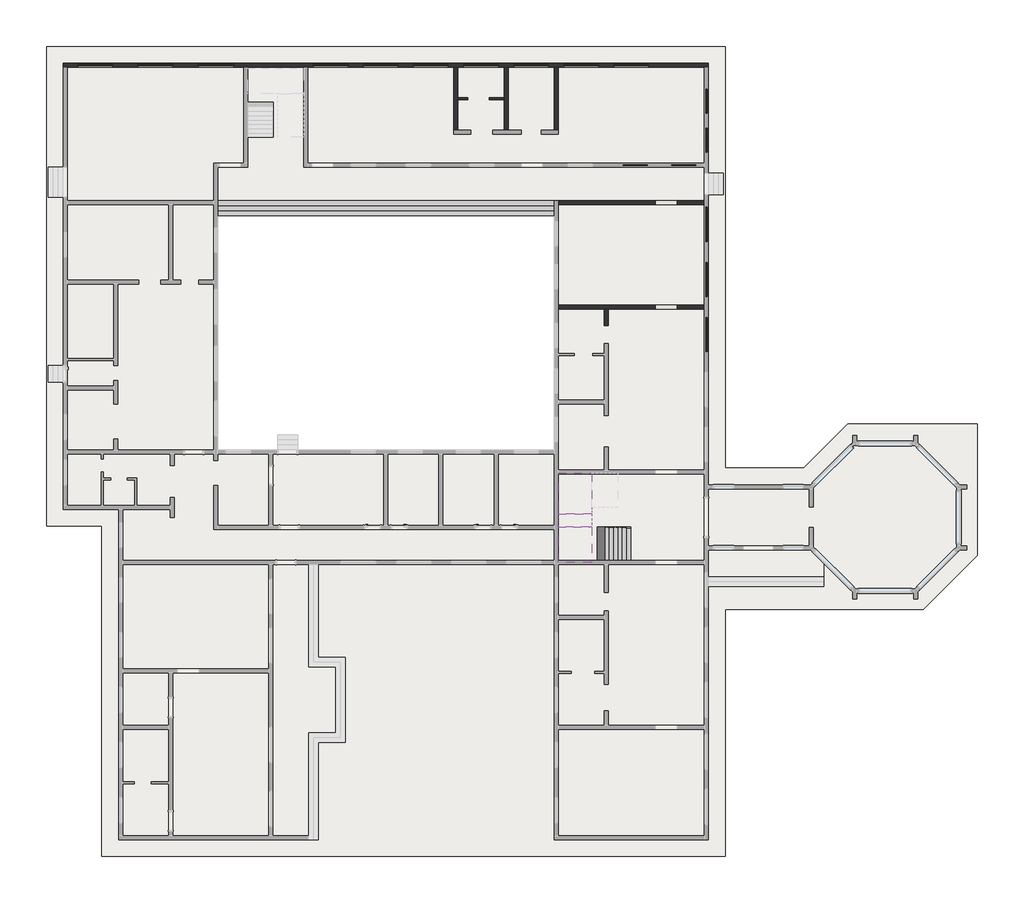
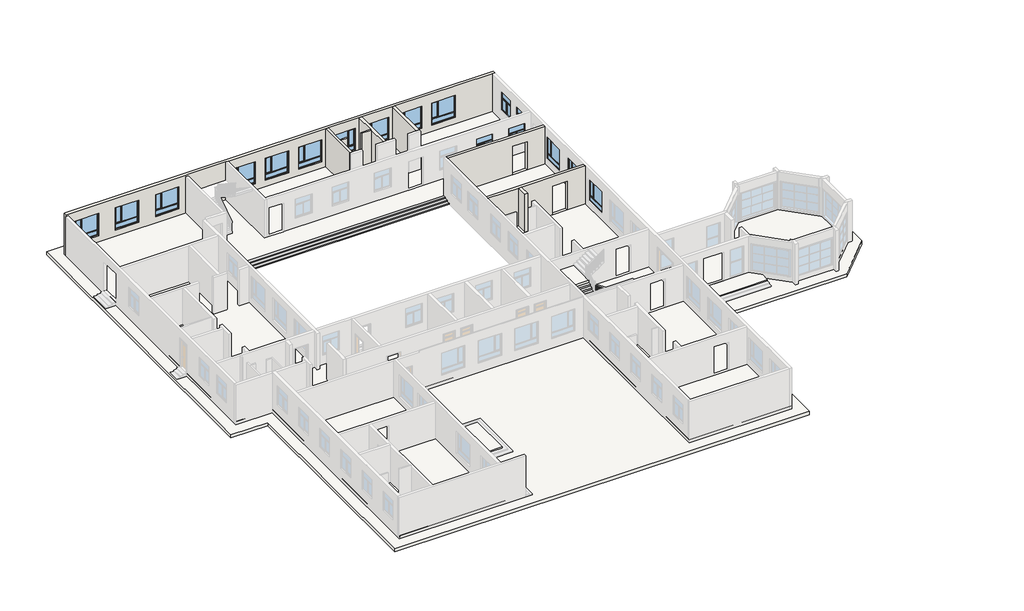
# One storey, part 4 of 5: 17 windows, 9 walls, 5 slabs, 2 stair flights, 1 proxy.
"""IFC4 building model written with IfcOpenShell, lengths in millimetres."""

from ifc_helpers import new_model, si_unit, frame, origin, origin_with_axes, place, context, project, spatial, polyline, outline, extrude, faceted_brep, transform, mapped, element, save
from components import c1_07d47191, c2_05897f81, c2_cc7e28b3

model = new_model("IFC4")

# Units and contexts
model_context = context("Model", 3, world=origin())
ifc_project = project(units=[si_unit("LENGTHUNIT", "METRE", prefix="MILLI")], contexts=[model_context])

# Site, building, storey
site = spatial("IfcSite", under=ifc_project)
building = spatial("IfcBuilding", under=site)
storey = spatial("IfcBuildingStorey", under=building, Name="一层", Elevation=0.0)

# Proxy
placement = place(None, origin())
element("IfcBuildingElementProxy", 1, Name="楼板边缘", ObjectType="楼板边缘", at=placement, inside=storey, context=model_context, shape_type="Brep", body=[
    faceted_brep([(-23140.2831392, 10466.2161615, -300.0), (-23140.2831392, 9566.2161615, -300.0), (-23140.2831392, 9566.2161615, -200.0), (-23140.2831392, 9866.2161615, -200.0), (-23140.2831392, 9866.2161615, -150.0), (-23140.2831392, 9866.2161615, -100.0), (-23140.2831392, 10166.2161615, -100.0), (-23140.2831392, 10166.2161615, 0.0), (-23140.2831392, 10466.2161615, 0.0), (-23140.2831392, 10466.2161615, -150.0), (-2990.2831392, 9566.2161615, -300.0), (-2990.2831392, 10466.2161615, -300.0), (-2990.2831392, 10466.2161615, -150.0), (-2990.2831392, 10466.2161615, 0.0), (-2990.2831392, 10166.2161615, 0.0), (-2990.2831392, 10166.2161615, -100.0), (-2990.2831392, 9866.2161615, -100.0), (-2990.2831392, 9866.2161615, -150.0), (-2990.2831392, 9866.2161615, -200.0), (-2990.2831392, 9566.2161615, -200.0)], [[[0, 1, 2, 3, 4, 5, 6, 7, 8, 9]], [[10, 11, 12, 13, 14, 15, 16, 17, 18, 19]], [[1, 0, 11, 10]], [[2, 1, 10, 19]], [[3, 2, 19, 18]], [[3, 18, 17, 16, 5, 4]], [[6, 5, 16, 15]], [[7, 6, 15, 14]], [[8, 7, 14, 13]], [[8, 13, 12, 11, 0, 9]]]),
])

# Slabs
element("IfcSlab", 2, ObjectType="楼板", at=placement, inside=storey, context=model_context, shape_type="Brep", body=[
    faceted_brep([(-32385.2831392, -423.7838385, -150.0), (-32390.2831392, -423.7838385, -150.0), (-32390.2831392, 576.2161615, -150.0), (-32385.2831392, 576.2161615, -150.0), (-32385.2831392, 10676.2161615, -150.0), (-32390.2831392, 10676.2161615, -150.0), (-32390.2831392, 12476.2161615, -150.0), (-32385.2831392, 12476.2161615, -150.0), (-32385.2831392, 18691.2161615, -150.0), (6244.7168608, 18691.2161615, -150.0), (6244.7168608, 12111.2161615, -150.0), (6249.7168608, 12111.2161615, -150.0), (6249.7168608, 10811.2161615, -150.0), (6244.7168608, 10811.2161615, -150.0), (6244.7168608, -6571.7838385, -150.0), (12377.0823012, -6571.7838385, -150.0), (14960.0823012, -3988.7838385, -150.0), (18709.3514205, -3988.7838385, -150.0), (21359.7168608, -6639.1492788, -150.0), (21359.7168608, -10388.4183981, -150.0), (18709.3514205, -13038.7838385, -150.0), (14960.0823012, -13038.7838385, -150.0), (12377.0823012, -10455.7838385, -150.0), (6244.7168608, -10455.7838385, -150.0), (6244.7168608, -27828.7838385, -150.0), (-2985.2831392, -27828.7838385, -150.0), (-2985.2831392, -11328.7838385, -150.0), (-17710.2831392, -11328.7838385, -150.0), (-17710.2831392, -17513.7838385, -150.0), (-16110.2831392, -17513.7838385, -150.0), (-16110.2831392, -21413.7838385, -150.0), (-17710.2831392, -21413.7838385, -150.0), (-17710.2831392, -27828.7838385, -150.0), (-29065.2831392, -27828.7838385, -150.0), (-29065.2831392, -8028.7838385, -150.0), (-32385.2831392, -8028.7838385, -150.0), (-23140.2831392, 10466.2161615, -150.0), (-23140.2831392, -4493.7838385, -150.0), (-2990.2831392, -4493.7838385, -150.0), (-2990.2831392, 10466.2161615, -150.0), (-32385.2831392, -423.7838385, 0.0), (-32385.2831392, -8028.7838385, 0.0), (-29065.2831392, -8028.7838385, 0.0), (-29065.2831392, -27828.7838385, 0.0), (-17710.2831392, -27828.7838385, 0.0), (-17710.2831392, -21413.7838385, 0.0), (-16110.2831392, -21413.7838385, 0.0), (-16110.2831392, -17513.7838385, 0.0), (-17710.2831392, -17513.7838385, 0.0), (-17710.2831392, -11328.7838385, 0.0), (-2985.2831392, -11328.7838385, 0.0), (-2985.2831392, -27828.7838385, 0.0), (6244.7168608, -27828.7838385, 0.0), (6244.7168608, -10455.7838385, 0.0), (12377.0823012, -10455.7838385, 0.0), (14960.0823012, -13038.7838385, 0.0), (18709.3514205, -13038.7838385, 0.0), (21359.7168608, -10388.4183981, 0.0), (21359.7168608, -6639.1492788, 0.0), (18709.3514205, -3988.7838385, 0.0), (14960.0823012, -3988.7838385, 0.0), (12377.0823012, -6571.7838385, 0.0), (6244.7168608, -6571.7838385, 0.0), (6244.7168608, 10811.2161615, 0.0), (6249.7168608, 10811.2161615, 0.0), (6249.7168608, 12111.2161615, 0.0), (6244.7168608, 12111.2161615, 0.0), (6244.7168608, 18691.2161615, 0.0), (-32385.2831392, 18691.2161615, 0.0), (-32385.2831392, 12476.2161615, 0.0), (-32390.2831392, 12476.2161615, 0.0), (-32390.2831392, 10676.2161615, 0.0), (-32385.2831392, 10676.2161615, 0.0), (-32385.2831392, 576.2161615, 0.0), (-32390.2831392, 576.2161615, 0.0), (-32390.2831392, -423.7838385, 0.0), (-23140.2831392, 10466.2161615, 0.0), (-2990.2831392, 10466.2161615, 0.0), (-2990.2831392, 10166.2161615, 0.0), (-2990.2831392, -4493.7838385, 0.0), (-23140.2831392, -4493.7838385, 0.0), (-23140.2831392, 10166.2161615, 0.0)], [[[0, 1, 2, 3, 4, 5, 6, 7, 8, 9, 10, 11, 12, 13, 14, 15, 16, 17, 18, 19, 20, 21, 22, 23, 24, 25, 26, 27, 28, 29, 30, 31, 32, 33, 34, 35], [36, 37, 38, 39]], [[40, 41, 42, 43, 44, 45, 46, 47, 48, 49, 50, 51, 52, 53, 54, 55, 56, 57, 58, 59, 60, 61, 62, 63, 64, 65, 66, 67, 68, 69, 70, 71, 72, 73, 74, 75], [76, 77, 78, 79, 80, 81]], [[9, 8, 68, 67]], [[14, 13, 63, 62]], [[15, 14, 62, 61]], [[16, 15, 61, 60]], [[17, 16, 60, 59]], [[18, 17, 59, 58]], [[19, 18, 58, 57]], [[20, 19, 57, 56]], [[21, 20, 56, 55]], [[22, 21, 55, 54]], [[23, 22, 54, 53]], [[24, 23, 53, 52]], [[25, 24, 52, 51]], [[26, 25, 51, 50]], [[27, 26, 50, 49]], [[28, 27, 49, 48]], [[29, 28, 48, 47]], [[30, 29, 47, 46]], [[31, 30, 46, 45]], [[32, 31, 45, 44]], [[33, 32, 44, 43]], [[34, 33, 43, 42]], [[35, 34, 42, 41]], [[0, 35, 41, 40]], [[1, 0, 40, 75]], [[2, 1, 75, 74]], [[3, 2, 74, 73]], [[4, 3, 73, 72]], [[5, 4, 72, 71]], [[6, 5, 71, 70]], [[7, 6, 70, 69]], [[8, 7, 69, 68]], [[10, 9, 67, 66]], [[11, 10, 66, 65]], [[12, 11, 65, 64]], [[13, 12, 64, 63]], [[37, 36, 76, 81, 80]], [[38, 37, 80, 79]], [[39, 38, 79, 78, 77]], [[36, 39, 77, 76]]]),
])
element("IfcSlab", 3, ObjectType="楼板", at=placement, inside=storey, context=model_context, shape_type="SweptSolid", body=[
    extrude(outline(polyline([(6249.7168608, -12060.7838385), (6249.7168608, -10460.7838385), (12375.0112333, -10460.7838385), (13149.7168608, -11235.4894659), (13149.7168608, -12060.7838385), (6249.7168608, -12060.7838385)])), frame((0.0, 0.0, -150.0), z_axis=(0.0, 0.0, 1.0), x_axis=(1.0, 0.0, 0.0)), (0.0, 0.0, 1.0), 150.0),
])
element("IfcSlab", 4, ObjectType="底板", at=placement, inside=storey, context=model_context, shape_type="SweptSolid", body=[
    extrude(outline(polyline([(7249.7168608, 19696.2161615), (7249.7168608, -5566.7838385), (11960.797671, -5566.7838385), (14610.9044522, -2916.6770573), (22364.7168608, -2916.6770573), (22364.7168608, -10804.7030283), (19125.6360507, -14043.7838385), (7249.7168608, -14043.7838385), (7249.7168608, -28833.7838385), (-30070.2831392, -28833.7838385), (-30070.2831392, -9033.7838385), (-33390.2831392, -9033.7838385), (-33390.2831392, 19696.2161615), (7249.7168608, 19696.2161615)]), holes=[polyline([(6249.7168608, 18696.2161615), (-32390.2831392, 18696.2161615), (-32390.2831392, -8033.7838385), (-29070.2831392, -8033.7838385), (-29070.2831392, -27833.7838385), (-17110.2831392, -27833.7838385), (-17110.2831392, -22013.7838385), (-15510.2831392, -22013.7838385), (-15510.2831392, -16913.7838385), (-17110.2831392, -16913.7838385), (-17110.2831392, -11333.7838385), (-2990.2831392, -11333.7838385), (-2990.2831392, -27833.7838385), (6249.7168608, -27833.7838385), (6249.7168608, -10460.7838385), (12375.0112333, -10460.7838385), (14887.7168608, -12973.4894659), (14958.0112333, -13043.7838385), (14971.4224883, -13043.7838385), (18711.4224883, -13043.7838385), (21364.7168608, -10390.4894659), (21364.7168608, -6637.078211), (18711.4224883, -3983.7838385), (14958.0112333, -3983.7838385), (12375.0112333, -6566.7838385), (6249.7168608, -6566.7838385), (6249.7168608, 18696.2161615)])]), frame((0.0, 0.0, -600.0), z_axis=(0.0, 0.0, 1.0), x_axis=(1.0, 0.0, 0.0)), (0.0, 0.0, 1.0), 300.0),
])
element("IfcSlab", 5, ObjectType="250 厚度", at=placement, inside=storey, context=model_context, shape_type="Brep", body=[
    faceted_brep([(-750.2831392, -11153.7838385, 1800.0), (-750.2831392, -9093.7838385, 1800.0), (-2750.2831392, -9093.7838385, 1800.0), (-2750.2831392, -9191.3718112, 1800.0), (-2750.2831392, -11213.7838385, 1800.0), (-750.2831392, -11213.7838385, 1800.0), (-750.2831392, -11213.7838385, 1550.0), (-750.2831392, -11153.7838385, 1550.0), (-750.2831392, -9093.7838385, 1620.0), (-750.2831392, -9093.7838385, 1617.5609042), (-750.2831392, -9093.7838385, 1437.5609042), (-912.6951664, -9093.7838385, 1550.0), (-912.6951664, -9093.7838385, 1617.5609042), (-2750.2831392, -9093.7838385, 1617.5609042), (-2750.2831392, -9191.3718112, 1550.0), (-2750.2831392, -11213.7838385, 1550.0), (-912.6951664, -9191.3718112, 1550.0), (-912.6951664, -11153.7838385, 1550.0), (-750.2831392, -11153.7838385, 1437.5609042)], [[[0, 1, 2, 3, 4, 5]], [[0, 5, 6, 7]], [[2, 1, 8, 9, 10, 11, 12, 13]], [[2, 13, 14, 15, 4, 3]], [[5, 4, 15, 6]], [[16, 17, 7, 6, 15, 14]], [[16, 11, 10, 18, 17]], [[11, 16, 12]], [[7, 17, 18]], [[16, 14, 13, 12]], [[1, 0, 7, 18, 10, 9, 8]]]),
])
element("IfcSlab", 6, ObjectType="250 厚度", at=placement, inside=storey, context=model_context, shape_type="Brep", body=[
    faceted_brep([(-2750.2831392, -8313.7838385, 2520.0), (-750.2831392, -8313.7838385, 2520.0), (-750.2831392, -8151.3718112, 2520.0), (-750.2831392, -7933.7838385, 2520.0), (-750.2831392, -5873.7838385, 2520.0), (-847.8711119, -5873.7838385, 2520.0), (-2750.2831392, -5873.7838385, 2520.0), (-2750.2831392, -8151.3718112, 2520.0), (-2750.2831392, -8313.7838385, 2340.0), (-2750.2831392, -8313.7838385, 2157.5609042), (-750.2831392, -8313.7838385, 2157.5609042), (-750.2831392, -8313.7838385, 2340.0), (-750.2831392, -8151.3718112, 2270.0), (-750.2831392, -7933.7838385, 2270.0), (-750.2831392, -7933.7838385, 2337.5609042), (-750.2831392, -5873.7838385, 2337.5609042), (-847.8711119, -5873.7838385, 2270.0), (-2750.2831392, -5873.7838385, 2270.0), (-2750.2831392, -8151.3718112, 2270.0), (-847.8711119, -7933.7838385, 2270.0)], [[[0, 1, 2, 3, 4, 5, 6, 7]], [[1, 0, 8, 9, 10, 11]], [[1, 11, 10, 12, 13, 14, 3, 2]], [[4, 3, 14, 15]], [[4, 15, 16, 17, 6, 5]], [[9, 8, 0, 7, 6, 17, 18]], [[19, 13, 12, 18, 17, 16]], [[13, 19, 14]], [[18, 12, 10, 9]], [[19, 16, 15, 14]]]),
])

# Stair flights
element("IfcStairFlight", 7, ObjectType="150mm 结构深度", at=placement, inside=storey, context=model_context, shape_type="Brep", body=[
    faceted_brep([(1329.7168608, -11153.7838385, 180.0), (1589.7168608, -11153.7838385, 180.0), (1589.7168608, -9093.7838385, 180.0), (1329.7168608, -9093.7838385, 180.0), (1329.7168608, -11153.7838385, 0.0), (1589.7168608, -11153.7838385, 0.0), (1589.7168608, -9093.7838385, 0.0), (1329.7168608, -9093.7838385, 0.0), (1069.7168608, -11153.7838385, 360.0), (1329.7168608, -11153.7838385, 360.0), (1329.7168608, -9093.7838385, 360.0), (1069.7168608, -9093.7838385, 360.0), (1069.7168608, -11153.7838385, 177.5609042), (1326.1937225, -11153.7838385, 0.0), (1326.1937225, -9093.7838385, 0.0), (1069.7168608, -9093.7838385, 177.5609042), (809.7168608, -11153.7838385, 540.0), (1069.7168608, -11153.7838385, 540.0), (1069.7168608, -9093.7838385, 540.0), (809.7168608, -9093.7838385, 540.0), (809.7168608, -11153.7838385, 357.5609042), (809.7168608, -9093.7838385, 357.5609042), (549.7168608, -11153.7838385, 720.0), (809.7168608, -11153.7838385, 720.0), (809.7168608, -9093.7838385, 720.0), (549.7168608, -9093.7838385, 720.0), (549.7168608, -11153.7838385, 537.5609042), (549.7168608, -9093.7838385, 537.5609042), (289.7168608, -11153.7838385, 900.0), (549.7168608, -11153.7838385, 900.0), (549.7168608, -9093.7838385, 900.0), (289.7168608, -9093.7838385, 900.0), (289.7168608, -11153.7838385, 717.5609042), (289.7168608, -9093.7838385, 717.5609042), (29.7168608, -11153.7838385, 1080.0), (289.7168608, -11153.7838385, 1080.0), (289.7168608, -9093.7838385, 1080.0), (29.7168608, -9093.7838385, 1080.0), (29.7168608, -11153.7838385, 897.5609042), (29.7168608, -9093.7838385, 897.5609042), (-230.2831392, -11153.7838385, 1260.0), (29.7168608, -11153.7838385, 1260.0), (29.7168608, -9093.7838385, 1260.0), (-230.2831392, -9093.7838385, 1260.0), (-230.2831392, -11153.7838385, 1077.5609042), (-230.2831392, -9093.7838385, 1077.5609042), (-490.2831392, -11153.7838385, 1440.0), (-230.2831392, -11153.7838385, 1440.0), (-230.2831392, -9093.7838385, 1440.0), (-490.2831392, -9093.7838385, 1440.0), (-490.2831392, -11153.7838385, 1257.5609042), (-490.2831392, -9093.7838385, 1257.5609042), (-750.2831392, -11153.7838385, 1620.0), (-490.2831392, -11153.7838385, 1620.0), (-490.2831392, -9093.7838385, 1620.0), (-750.2831392, -9093.7838385, 1620.0), (-750.2831392, -11153.7838385, 1550.0), (-750.2831392, -11153.7838385, 1437.5609042), (-750.2831392, -9093.7838385, 1437.5609042)], [[[0, 1, 2, 3]], [[1, 0, 4, 5]], [[2, 1, 5, 6]], [[3, 2, 6, 7]], [[8, 9, 10, 11]], [[4, 0, 9, 8, 12, 13]], [[0, 3, 10, 9]], [[3, 7, 14, 15, 11, 10]], [[16, 17, 18, 19]], [[17, 16, 20, 12, 8]], [[8, 11, 18, 17]], [[19, 18, 11, 15, 21]], [[22, 23, 24, 25]], [[23, 22, 26, 20, 16]], [[16, 19, 24, 23]], [[25, 24, 19, 21, 27]], [[28, 29, 30, 31]], [[29, 28, 32, 26, 22]], [[22, 25, 30, 29]], [[31, 30, 25, 27, 33]], [[34, 35, 36, 37]], [[35, 34, 38, 32, 28]], [[28, 31, 36, 35]], [[37, 36, 31, 33, 39]], [[40, 41, 42, 43]], [[41, 40, 44, 38, 34]], [[34, 37, 42, 41]], [[43, 42, 37, 39, 45]], [[46, 47, 48, 49]], [[47, 46, 50, 44, 40]], [[40, 43, 48, 47]], [[49, 48, 43, 45, 51]], [[52, 53, 54, 55]], [[53, 52, 56, 57, 50, 46]], [[46, 49, 54, 53]], [[55, 54, 49, 51, 58]], [[52, 55, 58, 57, 56]], [[5, 4, 13, 14, 7, 6]], [[14, 13, 12, 20, 26, 32, 38, 44, 50, 57, 58, 51, 45, 39, 33, 27, 21, 15]]]),
])
element("IfcStairFlight", 8, ObjectType="150mm 结构深度", at=placement, inside=storey, context=model_context, shape_type="Brep", body=[
    faceted_brep([(-2750.2831392, -8833.7838385, 1980.0), (-2750.2831392, -9093.7838385, 1980.0), (-750.2831392, -9093.7838385, 1980.0), (-750.2831392, -8833.7838385, 1980.0), (-2750.2831392, -8833.7838385, 1797.5609042), (-2750.2831392, -9093.7838385, 1617.5609042), (-2750.2831392, -9093.7838385, 1800.0), (-912.6951664, -9093.7838385, 1617.5609042), (-750.2831392, -9093.7838385, 1617.5609042), (-750.2831392, -9093.7838385, 1800.0), (-750.2831392, -8833.7838385, 1797.5609042), (-2750.2831392, -8573.7838385, 2160.0), (-2750.2831392, -8833.7838385, 2160.0), (-750.2831392, -8833.7838385, 2160.0), (-750.2831392, -8573.7838385, 2160.0), (-2750.2831392, -8573.7838385, 1977.5609042), (-750.2831392, -8573.7838385, 1977.5609042), (-2750.2831392, -8313.7838385, 2340.0), (-2750.2831392, -8573.7838385, 2340.0), (-750.2831392, -8573.7838385, 2340.0), (-750.2831392, -8313.7838385, 2340.0), (-2750.2831392, -8313.7838385, 2157.5609042), (-750.2831392, -8313.7838385, 2157.5609042)], [[[0, 1, 2, 3]], [[1, 0, 4, 5, 6]], [[2, 1, 6, 5, 7, 8, 9]], [[3, 2, 9, 8, 10]], [[11, 12, 13, 14]], [[12, 11, 15, 4, 0]], [[13, 12, 0, 3]], [[14, 13, 3, 10, 16]], [[17, 18, 19, 20]], [[18, 17, 21, 15, 11]], [[19, 18, 11, 14]], [[20, 19, 14, 16, 22]], [[17, 20, 22, 21]], [[5, 4, 15, 21, 22, 16, 10, 8, 7]]]),
])

# Walls
element("IfcWall", 9, ObjectType="墙", at=placement, inside=storey, context=model_context, shape_type="Brep", body=[
    faceted_brep([(-32390.2831392, 18456.2161615, 3600.0), (-32390.2831392, 18456.2161615, 3450.0), (-32390.2831392, 18456.2161615, -300.0), (-32150.2831392, 18456.2161615, -300.0), (-21590.2831392, 18456.2161615, -300.0), (-21350.2831392, 18456.2161615, -300.0), (-17990.2831392, 18456.2161615, -300.0), (-17750.2831392, 18456.2161615, -300.0), (-8990.2831392, 18456.2161615, -300.0), (-8750.2831392, 18456.2161615, -300.0), (-5990.2831392, 18456.2161615, -300.0), (-5750.2831392, 18456.2161615, -300.0), (-2990.2831392, 18456.2161615, -300.0), (-2750.2831392, 18456.2161615, -300.0), (6009.7168608, 18456.2161615, -300.0), (6249.7168608, 18456.2161615, -300.0), (6249.7168608, 18456.2161615, 3600.0), (6009.7168608, 18456.2161615, 3600.0), (-2750.2831392, 18456.2161615, 3600.0), (-2990.2831392, 18456.2161615, 3600.0), (-5750.2831392, 18456.2161615, 3600.0), (-5990.2831392, 18456.2161615, 3600.0), (-8750.2831392, 18456.2161615, 3600.0), (-8990.2831392, 18456.2161615, 3600.0), (-17750.2831392, 18456.2161615, 3600.0), (-17990.2831392, 18456.2161615, 3600.0), (-21350.2831392, 18456.2161615, 3600.0), (-21590.2831392, 18456.2161615, 3600.0), (-32150.2831392, 18456.2161615, 3600.0), (-32270.2831392, 18456.2161615, 3600.0), (-31520.2831392, 18456.2161615, 600.0), (-31520.2831392, 18456.2161615, 2700.0), (-29420.2831392, 18456.2161615, 2700.0), (-29420.2831392, 18456.2161615, 600.0), (-27920.2831392, 18456.2161615, 600.0), (-27920.2831392, 18456.2161615, 2700.0), (-25820.2831392, 18456.2161615, 2700.0), (-25820.2831392, 18456.2161615, 600.0), (-24290.2831392, 18456.2161615, 600.0), (-24290.2831392, 18456.2161615, 2700.0), (-22190.2831392, 18456.2161615, 2700.0), (-22190.2831392, 18456.2161615, 600.0), (-17420.2831392, 18456.2161615, 600.0), (-17420.2831392, 18456.2161615, 2700.0), (-15320.2831392, 18456.2161615, 2700.0), (-15320.2831392, 18456.2161615, 600.0), (-14420.2831392, 18456.2161615, 600.0), (-14420.2831392, 18456.2161615, 2700.0), (-12320.2831392, 18456.2161615, 2700.0), (-12320.2831392, 18456.2161615, 600.0), (-11420.2831392, 18456.2161615, 600.0), (-11420.2831392, 18456.2161615, 2700.0), (-9320.2831392, 18456.2161615, 2700.0), (-9320.2831392, 18456.2161615, 600.0), (-6320.2831392, 18456.2161615, 600.0), (-8420.2831392, 18456.2161615, 600.0), (-8420.2831392, 18456.2161615, 2700.0), (-6320.2831392, 18456.2161615, 2700.0), (-5420.2831392, 18456.2161615, 600.0), (-5420.2831392, 18456.2161615, 2700.0), (-3320.2831392, 18456.2161615, 2700.0), (-3320.2831392, 18456.2161615, 600.0), (-2420.2831392, 18456.2161615, 600.0), (-2420.2831392, 18456.2161615, 2700.0), (-320.2831392, 18456.2161615, 2700.0), (-320.2831392, 18456.2161615, 600.0), (579.7168608, 18456.2161615, 600.0), (579.7168608, 18456.2161615, 2700.0), (2679.7168608, 18456.2161615, 2700.0), (2679.7168608, 18456.2161615, 600.0), (-32390.2831392, 18696.2161615, -300.0), (-32390.2831392, 18696.2161615, 3450.0), (-32390.2831392, 18696.2161615, 3600.0), (-32270.2831392, 18696.2161615, 3600.0), (6249.7168608, 18696.2161615, 3600.0), (6249.7168608, 18696.2161615, -300.0), (-31520.2831392, 18696.2161615, 600.0), (-29420.2831392, 18696.2161615, 600.0), (-29420.2831392, 18696.2161615, 2700.0), (-31520.2831392, 18696.2161615, 2700.0), (-27920.2831392, 18696.2161615, 600.0), (-25820.2831392, 18696.2161615, 600.0), (-25820.2831392, 18696.2161615, 2700.0), (-27920.2831392, 18696.2161615, 2700.0), (-24290.2831392, 18696.2161615, 600.0), (-22190.2831392, 18696.2161615, 600.0), (-22190.2831392, 18696.2161615, 2700.0), (-24290.2831392, 18696.2161615, 2700.0), (-17420.2831392, 18696.2161615, 600.0), (-15320.2831392, 18696.2161615, 600.0), (-15320.2831392, 18696.2161615, 2700.0), (-17420.2831392, 18696.2161615, 2700.0), (-14420.2831392, 18696.2161615, 600.0), (-12320.2831392, 18696.2161615, 600.0), (-12320.2831392, 18696.2161615, 2700.0), (-14420.2831392, 18696.2161615, 2700.0), (-11420.2831392, 18696.2161615, 600.0), (-9320.2831392, 18696.2161615, 600.0), (-9320.2831392, 18696.2161615, 2700.0), (-11420.2831392, 18696.2161615, 2700.0), (-6320.2831392, 18696.2161615, 600.0), (-6320.2831392, 18696.2161615, 2700.0), (-8420.2831392, 18696.2161615, 2700.0), (-8420.2831392, 18696.2161615, 600.0), (-5420.2831392, 18696.2161615, 600.0), (-3320.2831392, 18696.2161615, 600.0), (-3320.2831392, 18696.2161615, 2700.0), (-5420.2831392, 18696.2161615, 2700.0), (-2420.2831392, 18696.2161615, 600.0), (-320.2831392, 18696.2161615, 600.0), (-320.2831392, 18696.2161615, 2700.0), (-2420.2831392, 18696.2161615, 2700.0), (579.7168608, 18696.2161615, 600.0), (2679.7168608, 18696.2161615, 600.0), (2679.7168608, 18696.2161615, 2700.0), (579.7168608, 18696.2161615, 2700.0)], [[[0, 1, 2, 3, 4, 5, 6, 7, 8, 9, 10, 11, 12, 13, 14, 15, 16, 17, 18, 19, 20, 21, 22, 23, 24, 25, 26, 27, 28, 29], [30, 31, 32, 33], [34, 35, 36, 37], [38, 39, 40, 41], [42, 43, 44, 45], [46, 47, 48, 49], [50, 51, 52, 53], [54, 55, 56, 57], [58, 59, 60, 61], [62, 63, 64, 65], [66, 67, 68, 69]], [[70, 71, 72, 73, 74, 75], [76, 77, 78, 79], [80, 81, 82, 83], [84, 85, 86, 87], [88, 89, 90, 91], [92, 93, 94, 95], [96, 97, 98, 99], [100, 101, 102, 103], [104, 105, 106, 107], [108, 109, 110, 111], [112, 113, 114, 115]], [[15, 14, 13, 12, 11, 10, 9, 8, 7, 6, 5, 4, 3, 2, 70, 75]], [[0, 29, 28, 27, 26, 25, 24, 23, 22, 21, 20, 19, 18, 17, 16, 74, 73, 72]], [[16, 15, 75, 74]], [[31, 30, 76, 79]], [[32, 31, 79, 78]], [[33, 32, 78, 77]], [[30, 33, 77, 76]], [[35, 34, 80, 83]], [[36, 35, 83, 82]], [[37, 36, 82, 81]], [[34, 37, 81, 80]], [[39, 38, 84, 87]], [[40, 39, 87, 86]], [[41, 40, 86, 85]], [[38, 41, 85, 84]], [[43, 42, 88, 91]], [[44, 43, 91, 90]], [[45, 44, 90, 89]], [[42, 45, 89, 88]], [[47, 46, 92, 95]], [[48, 47, 95, 94]], [[49, 48, 94, 93]], [[46, 49, 93, 92]], [[51, 50, 96, 99]], [[52, 51, 99, 98]], [[53, 52, 98, 97]], [[50, 53, 97, 96]], [[101, 100, 54, 57]], [[102, 101, 57, 56]], [[103, 102, 56, 55]], [[100, 103, 55, 54]], [[59, 58, 104, 107]], [[60, 59, 107, 106]], [[61, 60, 106, 105]], [[58, 61, 105, 104]], [[63, 62, 108, 111]], [[64, 63, 111, 110]], [[65, 64, 110, 109]], [[62, 65, 109, 108]], [[67, 66, 112, 115]], [[68, 67, 115, 114]], [[69, 68, 114, 113]], [[66, 69, 113, 112]], [[0, 72, 71, 70, 2, 1]]]),
])
element("IfcWall", 10, ObjectType="墙", at=placement, inside=storey, context=model_context, shape_type="Brep", body=[
    faceted_brep([(-8750.2831392, 14696.2161615, -300.0), (-8750.2831392, 18456.2161615, -300.0), (-8750.2831392, 18456.2161615, 3600.0), (-8750.2831392, 16636.2161615, 3600.0), (-8750.2831392, 16516.2161615, 3600.0), (-8750.2831392, 14696.2161615, 3600.0), (-8990.2831392, 14696.2161615, -300.0), (-8990.2831392, 14696.2161615, 3600.0), (-8990.2831392, 18456.2161615, 3600.0), (-8990.2831392, 18456.2161615, -300.0)], [[[0, 1, 2, 3, 4, 5]], [[6, 7, 8, 9]], [[1, 0, 6, 9]], [[5, 4, 3, 2, 8, 7]], [[0, 5, 7, 6]], [[2, 1, 9, 8]]]),
])
element("IfcWall", 11, ObjectType="墙", at=placement, inside=storey, context=model_context, shape_type="Brep", body=[
    faceted_brep([(-5750.2831392, 14696.2161615, -300.0), (-5750.2831392, 18456.2161615, -300.0), (-5750.2831392, 18456.2161615, 3600.0), (-5750.2831392, 14696.2161615, 3600.0), (-5990.2831392, 14696.2161615, -300.0), (-5990.2831392, 14696.2161615, 3600.0), (-5990.2831392, 16516.2161615, 3600.0), (-5990.2831392, 16636.2161615, 3600.0), (-5990.2831392, 18456.2161615, 3600.0), (-5990.2831392, 18456.2161615, -300.0)], [[[0, 1, 2, 3]], [[4, 5, 6, 7, 8, 9]], [[1, 0, 4, 9]], [[3, 2, 8, 7, 6, 5]], [[2, 1, 9, 8]], [[0, 3, 5, 4]]]),
])
element("IfcWall", 12, ObjectType="隔墙", at=placement, inside=storey, context=model_context, shape_type="SweptSolid", body=[
    extrude(outline(polyline([(-8170.2831392, 16516.2161615), (-8750.2831392, 16516.2161615), (-8750.2831392, 16636.2161615), (-8170.2831392, 16636.2161615), (-8170.2831392, 16516.2161615)])), origin_with_axes(), (0.0, 0.0, 1.0), 3600.0),
])
element("IfcWall", 13, ObjectType="墙", at=placement, inside=storey, context=model_context, shape_type="Brep", body=[
    faceted_brep([(-2750.2831392, 3966.2161615, -300.0), (9.7168608, 3966.2161615, -300.0), (249.7168608, 3966.2161615, -300.0), (6009.7168608, 3966.2161615, -300.0), (6009.7168608, 3966.2161615, 3600.0), (249.7168608, 3966.2161615, 3600.0), (9.7168608, 3966.2161615, 3600.0), (-2750.2831392, 3966.2161615, 3600.0), (4379.7168608, 3966.2161615, 0.0), (3079.7168608, 3966.2161615, 0.0), (3079.7168608, 3966.2161615, 2700.0), (4379.7168608, 3966.2161615, 2700.0), (-2750.2831392, 4206.2161615, -300.0), (-2750.2831392, 4206.2161615, 3600.0), (6009.7168608, 4206.2161615, 3600.0), (6009.7168608, 4206.2161615, -300.0), (4379.7168608, 4206.2161615, 0.0), (4379.7168608, 4206.2161615, 2700.0), (3079.7168608, 4206.2161615, 2700.0), (3079.7168608, 4206.2161615, 0.0)], [[[0, 1, 2, 3, 4, 5, 6, 7], [8, 9, 10, 11]], [[12, 13, 14, 15], [16, 17, 18, 19]], [[3, 2, 1, 0, 12, 15]], [[7, 6, 5, 4, 14, 13]], [[4, 3, 15, 14]], [[0, 7, 13, 12]], [[17, 16, 8, 11]], [[18, 17, 11, 10]], [[19, 18, 10, 9]], [[16, 19, 9, 8]]]),
])
element("IfcWall", 14, ObjectType="墙", at=placement, inside=storey, context=model_context, shape_type="SweptSolid", body=[
    extrude(outline(polyline([(9.7168608, 2986.2161615), (9.7168608, 3966.2161615), (249.7168608, 3966.2161615), (249.7168608, 2986.2161615), (9.7168608, 2986.2161615)])), frame((0.0, 0.0, -300.0), z_axis=(0.0, 0.0, 1.0), x_axis=(1.0, 0.0, 0.0)), (0.0, 0.0, 1.0), 3900.0),
])
element("IfcWall", 15, ObjectType="墙", at=placement, inside=storey, context=model_context, shape_type="Brep", body=[
    faceted_brep([(-2750.2831392, 10226.2161615, -300.0), (6009.7168608, 10226.2161615, -300.0), (6009.7168608, 10226.2161615, 3600.0), (2179.7168608, 10226.2161615, 3600.0), (879.7168608, 10226.2161615, 3600.0), (-2750.2831392, 10226.2161615, 3600.0), (3079.7168608, 10226.2161615, 0.0), (3079.7168608, 10226.2161615, 2700.0), (4379.7168608, 10226.2161615, 2700.0), (4379.7168608, 10226.2161615, 0.0), (-2750.2831392, 10466.2161615, -300.0), (-2750.2831392, 10466.2161615, 3600.0), (879.7168608, 10466.2161615, 3600.0), (2179.7168608, 10466.2161615, 3600.0), (6009.7168608, 10466.2161615, 3600.0), (6009.7168608, 10466.2161615, -300.0), (3079.7168608, 10466.2161615, 0.0), (4379.7168608, 10466.2161615, 0.0), (4379.7168608, 10466.2161615, 2700.0), (3079.7168608, 10466.2161615, 2700.0)], [[[0, 1, 2, 3, 4, 5], [6, 7, 8, 9]], [[10, 11, 12, 13, 14, 15], [16, 17, 18, 19]], [[1, 0, 10, 15]], [[5, 4, 3, 2, 14, 13, 12, 11]], [[2, 1, 15, 14]], [[0, 5, 11, 10]], [[7, 6, 16, 19]], [[8, 7, 19, 18]], [[9, 8, 18, 17]], [[6, 9, 17, 16]]]),
])
element("IfcWall", 16, ObjectType="隔墙", at=placement, inside=storey, context=model_context, shape_type="SweptSolid", body=[
    extrude(outline(polyline([(-5990.2831392, 16516.2161615), (-6870.2831392, 16516.2161615), (-6870.2831392, 16636.2161615), (-5990.2831392, 16636.2161615), (-5990.2831392, 16516.2161615)])), origin_with_axes(), (0.0, 0.0, 1.0), 3600.0),
])
element("IfcWall", 17, ObjectType="墙", at=placement, inside=storey, context=model_context, shape_type="SweptSolid", body=[
    extrude(outline(polyline([(-2750.2831392, 18456.2161615), (-2750.2831392, 14696.2161615), (-2990.2831392, 14696.2161615), (-2990.2831392, 18456.2161615), (-2750.2831392, 18456.2161615)])), frame((0.0, 0.0, -300.0), z_axis=(0.0, 0.0, 1.0), x_axis=(1.0, 0.0, 0.0)), (0.0, 0.0, 1.0), 3900.0),
])

# Windows
c1_shape = c1_07d47191(model_context)
element("IfcWindow", 18, ObjectType="组合窗 - 双层单列(固定+推拉) : C1", at=placement, inside=storey, context=model_context, shape_type="MappedRepresentation", body=[
    mapped(c1_shape, transform((6129.7168608, 16426.2161615, 0.0), x_axis=(0.0, -1.0, 0.0), y_axis=(1.0, 0.0, 0.0), z_axis=(0.0, 0.0, 1.0))),
])
element("IfcWindow", 19, ObjectType="组合窗 - 双层单列(固定+推拉) : C1", at=placement, inside=storey, context=model_context, shape_type="MappedRepresentation", body=[
    mapped(c1_shape, transform((6129.7168608, 14076.2161615, 0.0), x_axis=(0.0, -1.0, 0.0), y_axis=(1.0, 0.0, 0.0), z_axis=(0.0, 0.0, 1.0))),
])
element("IfcWindow", 20, ObjectType="组合窗 - 双层单列(固定+推拉) : C1", at=placement, inside=storey, context=model_context, shape_type="MappedRepresentation", body=[
    mapped(c1_shape, transform((4779.7168608, 12576.2161615, 0.0), x_axis=(1.0, 0.0, 0.0), y_axis=(0.0, 1.0, 0.0), z_axis=(0.0, 0.0, 1.0))),
])
element("IfcWindow", 21, ObjectType="组合窗 - 双层单列(固定+推拉) : C1", at=placement, inside=storey, context=model_context, shape_type="MappedRepresentation", body=[
    mapped(c1_shape, transform((1879.7168608, 12576.2161615, 0.0), x_axis=(1.0, 0.0, 0.0), y_axis=(0.0, 1.0, 0.0), z_axis=(0.0, 0.0, 1.0))),
])
c2_shape = c2_05897f81(model_context)
element("IfcWindow", 22, ObjectType="组合窗 - 双层双列(平开+固定) - 下部单扇 : C2", at=placement, inside=storey, context=model_context, shape_type="MappedRepresentation", body=[
    mapped(c2_shape, transform((-30470.2831392, 18576.2161615, 0.0), x_axis=(1.0, 0.0, 0.0), y_axis=(0.0, 1.0, 0.0), z_axis=(0.0, 0.0, 1.0))),
])
element("IfcWindow", 23, ObjectType="组合窗 - 双层双列(平开+固定) - 下部单扇 : C2", at=placement, inside=storey, context=model_context, shape_type="MappedRepresentation", body=[
    mapped(c2_shape, transform((-26870.2831392, 18576.2161615, 0.0), x_axis=(1.0, 0.0, 0.0), y_axis=(0.0, 1.0, 0.0), z_axis=(0.0, 0.0, 1.0))),
])
element("IfcWindow", 24, ObjectType="组合窗 - 双层双列(平开+固定) - 下部单扇 : C2", at=placement, inside=storey, context=model_context, shape_type="MappedRepresentation", body=[
    mapped(c2_shape, transform((-23240.2831392, 18576.2161615, 0.0), x_axis=(1.0, 0.0, 0.0), y_axis=(0.0, 1.0, 0.0), z_axis=(0.0, 0.0, 1.0))),
])
element("IfcWindow", 25, ObjectType="组合窗 - 双层双列(平开+固定) - 下部单扇 : C2", at=placement, inside=storey, context=model_context, shape_type="MappedRepresentation", body=[
    mapped(c2_shape, transform((-16370.2831392, 18576.2161615, 0.0), x_axis=(1.0, 0.0, 0.0), y_axis=(0.0, 1.0, 0.0), z_axis=(0.0, 0.0, 1.0))),
])
element("IfcWindow", 26, ObjectType="组合窗 - 双层双列(平开+固定) - 下部单扇 : C2", at=placement, inside=storey, context=model_context, shape_type="MappedRepresentation", body=[
    mapped(c2_shape, transform((-13370.2831392, 18576.2161615, 0.0), x_axis=(1.0, 0.0, 0.0), y_axis=(0.0, 1.0, 0.0), z_axis=(0.0, 0.0, 1.0))),
])
element("IfcWindow", 27, ObjectType="组合窗 - 双层双列(平开+固定) - 下部单扇 : C2", at=placement, inside=storey, context=model_context, shape_type="MappedRepresentation", body=[
    mapped(c2_shape, transform((-10370.2831392, 18576.2161615, 0.0), x_axis=(1.0, 0.0, 0.0), y_axis=(0.0, 1.0, 0.0), z_axis=(0.0, 0.0, 1.0))),
])
element("IfcWindow", 28, ObjectType="组合窗 - 双层双列(平开+固定) - 下部单扇 : C2", at=placement, inside=storey, context=model_context, shape_type="MappedRepresentation", body=[
    mapped(c2_shape, transform((-4370.2831392, 18576.2161615, 0.0), x_axis=(1.0, 0.0, 0.0), y_axis=(0.0, 1.0, 0.0), z_axis=(0.0, 0.0, 1.0))),
])
element("IfcWindow", 29, ObjectType="组合窗 - 双层双列(平开+固定) - 下部单扇 : C2", at=placement, inside=storey, context=model_context, shape_type="MappedRepresentation", body=[
    mapped(c2_shape, transform((-1370.2831392, 18576.2161615, 0.0), x_axis=(1.0, 0.0, 0.0), y_axis=(0.0, 1.0, 0.0), z_axis=(0.0, 0.0, 1.0))),
])
element("IfcWindow", 30, ObjectType="组合窗 - 双层双列(平开+固定) - 下部单扇 : C2", at=placement, inside=storey, context=model_context, shape_type="MappedRepresentation", body=[
    mapped(c2_shape, transform((1629.7168608, 18576.2161615, 0.0), x_axis=(1.0, 0.0, 0.0), y_axis=(0.0, 1.0, 0.0), z_axis=(0.0, 0.0, 1.0))),
])
element("IfcWindow", 31, ObjectType="组合窗 - 双层双列(平开+固定) - 下部单扇 : C2", at=placement, inside=storey, context=model_context, shape_type="MappedRepresentation", body=[
    mapped(c2_shape, transform((6129.7168608, 9036.2161615, 0.0), x_axis=(0.0, -1.0, 0.0), y_axis=(1.0, 0.0, 0.0), z_axis=(0.0, 0.0, 1.0))),
])
element("IfcWindow", 32, ObjectType="组合窗 - 双层双列(平开+固定) - 下部单扇 : C2", at=placement, inside=storey, context=model_context, shape_type="MappedRepresentation", body=[
    mapped(c2_shape, transform((6129.7168608, 5736.2161615, 0.0), x_axis=(0.0, -1.0, 0.0), y_axis=(1.0, 0.0, 0.0), z_axis=(0.0, 0.0, 1.0))),
])
element("IfcWindow", 33, ObjectType="组合窗 - 双层双列(平开+固定) - 下部单扇 : C2", at=placement, inside=storey, context=model_context, shape_type="MappedRepresentation", body=[
    mapped(c2_shape, transform((6129.7168608, 2436.2161615, 0.0), x_axis=(0.0, -1.0, 0.0), y_axis=(1.0, 0.0, 0.0), z_axis=(0.0, 0.0, 1.0))),
])
c2_2_shape = c2_cc7e28b3(model_context)
element("IfcWindow", 34, ObjectType="组合窗 - 双层双列(平开+固定) - 下部单扇 : C2", at=placement, inside=storey, context=model_context, shape_type="MappedRepresentation", body=[
    mapped(c2_2_shape, transform((-7370.2831392, 18576.2161615, 0.0), x_axis=(-1.0, 0.0, 0.0), y_axis=(0.0, -1.0, 0.0), z_axis=(0.0, 0.0, 1.0))),
])

save(model, "model.ifc")
